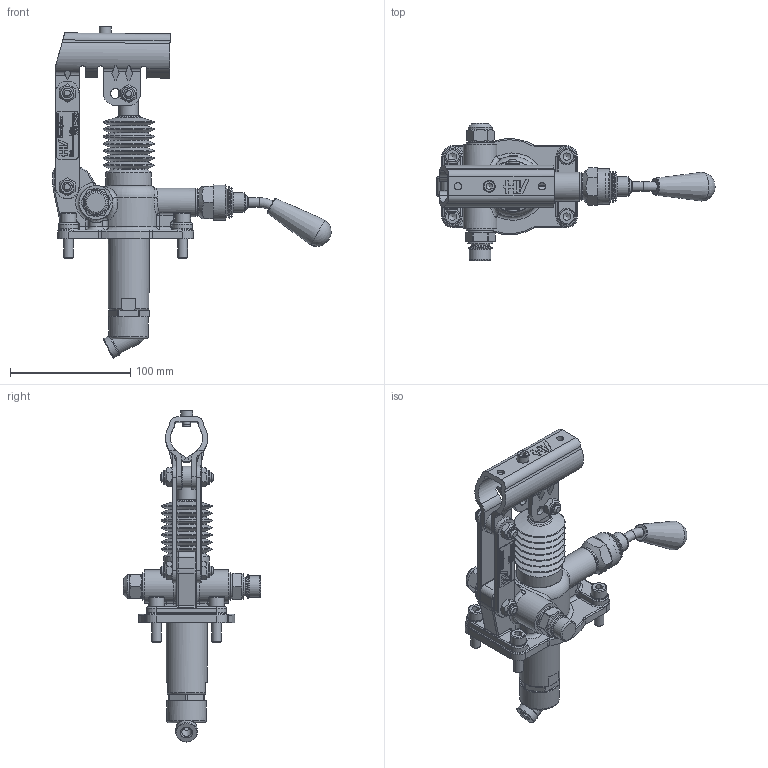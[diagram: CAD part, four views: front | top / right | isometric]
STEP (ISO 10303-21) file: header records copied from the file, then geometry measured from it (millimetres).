
FILE_DESCRIPTION((''),'2;1');
FILE_NAME('G:\HV_HYDRAULIC\AZIENDA_HV_HYDRAULIC\ARCHIVIO_DISEGNI\5_PRODOTTI_FINITI\1_POMPE_MANUALI\6051_PM_25\6051.0142_PM_25_byB-mna-s_(HV)\6051.0142.stp','2024-02-28T12:32:10',('christian.scardovi'),(''),'Autodesk Inventor 2013','Autodesk Inventor 2013','');
FILE_SCHEMA(('AUTOMOTIVE_DESIGN { 1 0 10303 214 1 1 1 1 }'));
Length unit declared in the file: millimetre
Products named in the file (1): 6051.0142
Bounding box: 231.43 x 114 x 276.08 mm (x, y, z)
Volume: 421653 mm3; surface area: 131368.5 mm2
Topology: 3 solids, 3 shells, 1501 faces, 3746 edges, 2355 vertices
Faces by surface type: plane 723, cylinder 303, bspline 190, cone 161, torus 107, sphere 17
Full cylindrical faces by diameter (mm): 3 x2, 5 x6, 5.5 x1, 6 x4, 6.5 x2, 8 x17, 9 x2, 9.2 x1, 10 x5, 10.376 x1, 11.05 x6, 12 x5, 13 x4, 13.2 x1, 13.468 x1, 14 x4, 14.95 x3, 15 x3, 15.5 x1, 16 x4, 16.468 x1, 16.6 x3, 17 x1, 17.6 x1, 18 x5, 19.7 x1, 20 x4, 21 x2, 22 x2, 23 x4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
Entity records: 46367 total; most frequent: CARTESIAN_POINT 11902, ORIENTED_EDGE 6768, DIRECTION 6325, EDGE_CURVE 3384, VERTEX_POINT 2272, AXIS2_PLACEMENT_3D 2256, EDGE_LOOP 1916, VECTOR 1813
